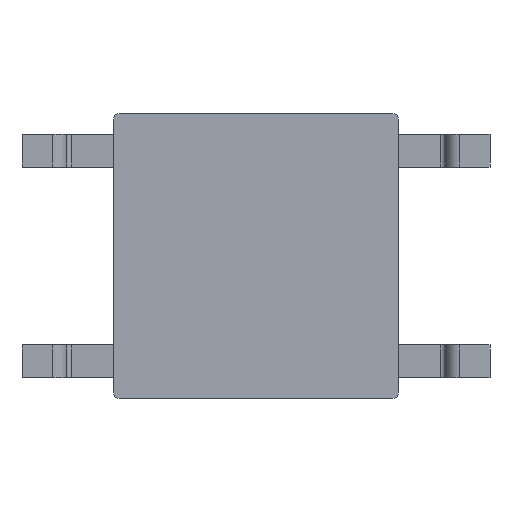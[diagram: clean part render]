
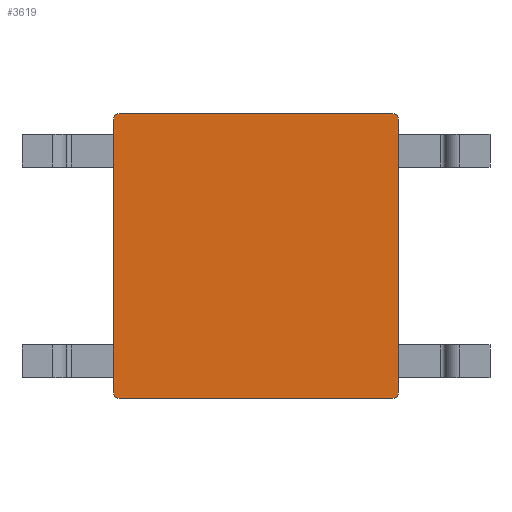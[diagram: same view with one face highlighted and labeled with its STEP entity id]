
A CAD part, front view. The second image highlights one B-rep face of the part: STEP entity #3619.
In plain terms, the highlighted planar face has unit normal (0, -1, 0).
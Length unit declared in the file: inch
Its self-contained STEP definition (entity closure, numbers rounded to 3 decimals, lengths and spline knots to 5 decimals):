
#15 = DIRECTION ( 'NONE',  ( 0., -1., 0. ) ) ;
#18 = VERTEX_POINT ( 'NONE', #1050 ) ;
#56 = DIRECTION ( 'NONE',  ( 0., 0., 1. ) ) ;
#61 = VECTOR ( 'NONE', #964, 39.37008 ) ;
#68 = VECTOR ( 'NONE', #1245, 39.37008 ) ;
#176 = EDGE_CURVE ( 'NONE', #2219, #1089, #3331, .T. ) ;
#313 = VERTEX_POINT ( 'NONE', #715 ) ;
#340 = ORIENTED_EDGE ( 'NONE', *, *, #1793, .T. ) ;
#402 = VERTEX_POINT ( 'NONE', #1612 ) ;
#418 = DIRECTION ( 'NONE',  ( 0., -1., 0. ) ) ;
#506 = CARTESIAN_POINT ( 'NONE',  ( -0.12008, 0., 0.11417 ) ) ;
#532 = PLANE ( 'NONE',  #2438 ) ;
#535 = EDGE_LOOP ( 'NONE', ( #1560, #2284, #2328, #340, #2548, #3854, #3668, #2319 ) ) ;
#568 = EDGE_CURVE ( 'NONE', #18, #1089, #2844, .T. ) ;
#615 = EDGE_CURVE ( 'NONE', #402, #1240, #3738, .T. ) ;
#618 = CARTESIAN_POINT ( 'NONE',  ( -0.12008, 0., -0.12008 ) ) ;
#622 = VERTEX_POINT ( 'NONE', #3703 ) ;
#715 = CARTESIAN_POINT ( 'NONE',  ( 0.11417, 0., 0.12008 ) ) ;
#753 = VERTEX_POINT ( 'NONE', #1663 ) ;
#787 = CARTESIAN_POINT ( 'NONE',  ( 0., 0., 0. ) ) ;
#964 = DIRECTION ( 'NONE',  ( -1., 0., 0. ) ) ;
#993 = DIRECTION ( 'NONE',  ( 0., 0., 1. ) ) ;
#1001 = EDGE_CURVE ( 'NONE', #622, #753, #1492, .T. ) ;
#1025 = EDGE_CURVE ( 'NONE', #402, #313, #3622, .T. ) ;
#1050 = CARTESIAN_POINT ( 'NONE',  ( -0.12008, 0., -0.11417 ) ) ;
#1089 = VERTEX_POINT ( 'NONE', #1262 ) ;
#1240 = VERTEX_POINT ( 'NONE', #506 ) ;
#1245 = DIRECTION ( 'NONE',  ( 1., 0., 0. ) ) ;
#1247 = DIRECTION ( 'NONE',  ( 0., -1., 0. ) ) ;
#1262 = CARTESIAN_POINT ( 'NONE',  ( -0.11417, 0., -0.12008 ) ) ;
#1265 = AXIS2_PLACEMENT_3D ( 'NONE', #1868, #1247, #2125 ) ;
#1287 = EDGE_CURVE ( 'NONE', #18, #1240, #2288, .T. ) ;
#1390 = AXIS2_PLACEMENT_3D ( 'NONE', #2726, #15, #56 ) ;
#1454 = EDGE_CURVE ( 'NONE', #622, #313, #2810, .T. ) ;
#1492 = LINE ( 'NONE', #3603, #3358 ) ;
#1560 = ORIENTED_EDGE ( 'NONE', *, *, #1287, .F. ) ;
#1612 = CARTESIAN_POINT ( 'NONE',  ( -0.11417, 0., 0.12008 ) ) ;
#1663 = CARTESIAN_POINT ( 'NONE',  ( 0.12008, 0., -0.11417 ) ) ;
#1782 = AXIS2_PLACEMENT_3D ( 'NONE', #2871, #418, #3154 ) ;
#1793 = EDGE_CURVE ( 'NONE', #2219, #753, #3694, .T. ) ;
#1839 = DIRECTION ( 'NONE',  ( 0., -1., 0. ) ) ;
#1868 = CARTESIAN_POINT ( 'NONE',  ( -0.11417, 0., -0.11417 ) ) ;
#1977 = AXIS2_PLACEMENT_3D ( 'NONE', #2762, #1839, #993 ) ;
#2125 = DIRECTION ( 'NONE',  ( 0., 0., 1. ) ) ;
#2219 = VERTEX_POINT ( 'NONE', #2695 ) ;
#2284 = ORIENTED_EDGE ( 'NONE', *, *, #568, .T. ) ;
#2288 = LINE ( 'NONE', #3501, #2536 ) ;
#2319 = ORIENTED_EDGE ( 'NONE', *, *, #615, .T. ) ;
#2328 = ORIENTED_EDGE ( 'NONE', *, *, #176, .F. ) ;
#2364 = DIRECTION ( 'NONE',  ( 0., 0., -1. ) ) ;
#2438 = AXIS2_PLACEMENT_3D ( 'NONE', #787, #2606, #2626 ) ;
#2536 = VECTOR ( 'NONE', #2944, 39.37008 ) ;
#2548 = ORIENTED_EDGE ( 'NONE', *, *, #1001, .F. ) ;
#2606 = DIRECTION ( 'NONE',  ( 0., 1., 0. ) ) ;
#2626 = DIRECTION ( 'NONE',  ( 1., 0., 0. ) ) ;
#2684 = CARTESIAN_POINT ( 'NONE',  ( -0.12008, 0., 0.12008 ) ) ;
#2695 = CARTESIAN_POINT ( 'NONE',  ( 0.11417, 0., -0.12008 ) ) ;
#2726 = CARTESIAN_POINT ( 'NONE',  ( -0.11417, 0., 0.11417 ) ) ;
#2762 = CARTESIAN_POINT ( 'NONE',  ( 0.11417, 0., 0.11417 ) ) ;
#2810 = CIRCLE ( 'NONE', #1977, 0.00591 ) ;
#2844 = CIRCLE ( 'NONE', #1265, 0.00591 ) ;
#2871 = CARTESIAN_POINT ( 'NONE',  ( 0.11417, 0., -0.11417 ) ) ;
#2944 = DIRECTION ( 'NONE',  ( 0., 0., 1. ) ) ;
#3154 = DIRECTION ( 'NONE',  ( 0., 0., 1. ) ) ;
#3331 = LINE ( 'NONE', #618, #61 ) ;
#3358 = VECTOR ( 'NONE', #2364, 39.37008 ) ;
#3501 = CARTESIAN_POINT ( 'NONE',  ( -0.12008, 0., -0.12008 ) ) ;
#3505 = FACE_OUTER_BOUND ( 'NONE', #535, .T. ) ;
#3603 = CARTESIAN_POINT ( 'NONE',  ( 0.12008, 0., -0.12008 ) ) ;
#3619 = ADVANCED_FACE ( 'NONE', ( #3505 ), #532, .F. ) ;
#3622 = LINE ( 'NONE', #2684, #68 ) ;
#3668 = ORIENTED_EDGE ( 'NONE', *, *, #1025, .F. ) ;
#3694 = CIRCLE ( 'NONE', #1782, 0.00591 ) ;
#3703 = CARTESIAN_POINT ( 'NONE',  ( 0.12008, 0., 0.11417 ) ) ;
#3738 = CIRCLE ( 'NONE', #1390, 0.00591 ) ;
#3854 = ORIENTED_EDGE ( 'NONE', *, *, #1454, .T. ) ;
